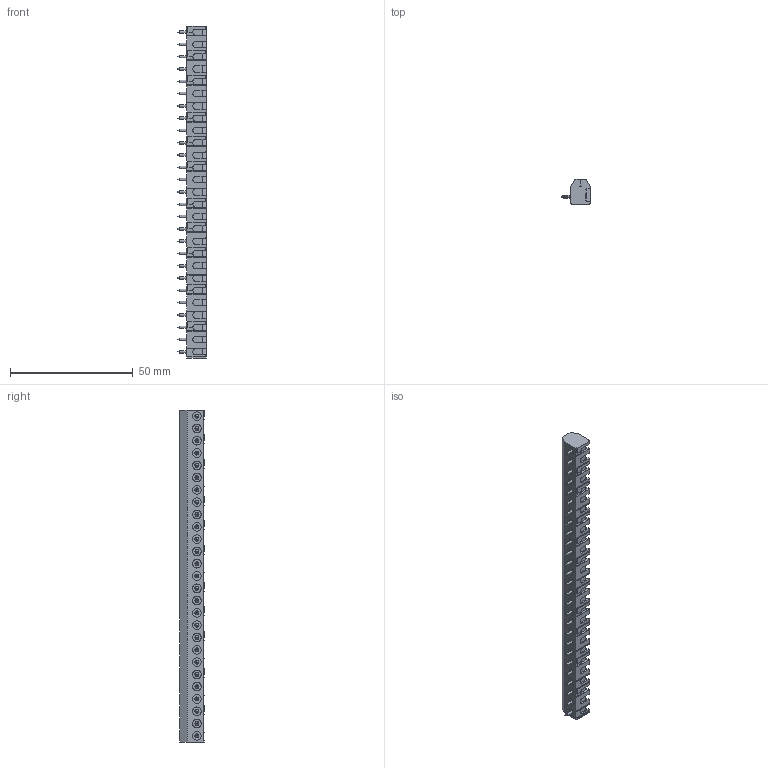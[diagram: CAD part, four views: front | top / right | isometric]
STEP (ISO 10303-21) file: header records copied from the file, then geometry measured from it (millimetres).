
FILE_DESCRIPTION (( 'STEP AP214' ), '1' );
FILE_NAME ('951-FB-27.STEP', '2008-03-13T04:06:11', ( ' ' ), ( '' ), 'SwSTEP 2.0', 'SolidWorks 2007', '' );
FILE_SCHEMA (( 'AUTOMOTIVE_DESIGN' ));
Products named in the file (1): 951-FB-27
Bounding box: 11.7 x 10 x 135 mm (x, y, z)
Volume: 7303.8 mm3; surface area: 7773.2 mm2
Topology: 1 solids, 1 shells, 2318 faces, 6684 edges, 4341 vertices
Faces by surface type: plane 1524, cylinder 605, cone 135, bspline 54
Entity records: 80196 total; most frequent: CARTESIAN_POINT 19338, ORIENTED_EDGE 13368, DIRECTION 12073, EDGE_CURVE 6684, LINE 4637, VECTOR 4637, VERTEX_POINT 4341, AXIS2_PLACEMENT_3D 3718
